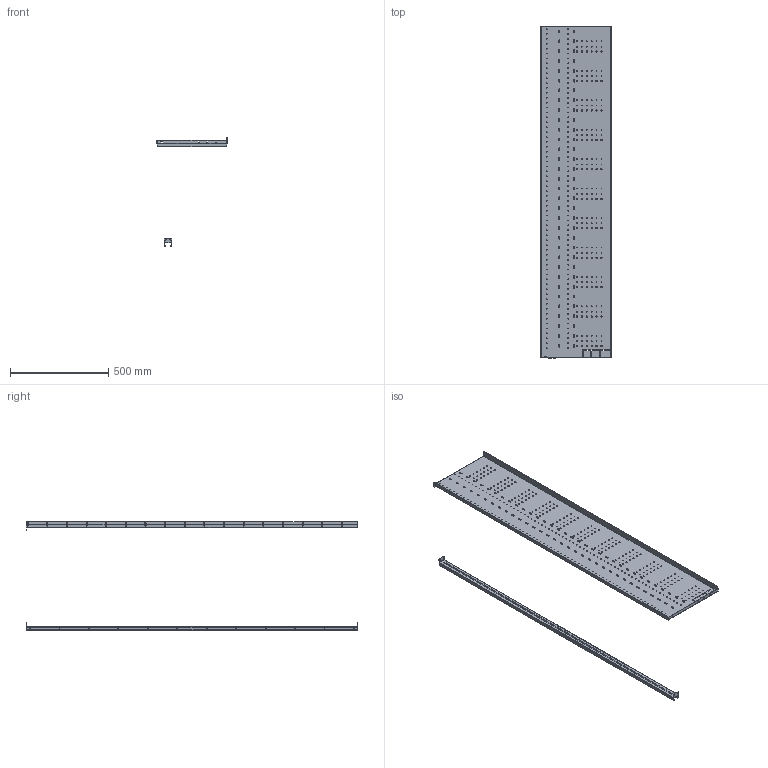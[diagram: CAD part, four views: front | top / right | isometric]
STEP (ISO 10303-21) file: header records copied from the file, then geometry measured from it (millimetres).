
FILE_DESCRIPTION(('CAx-IF Rec.Pracs.---Model Styling and Organization---1.2---2011-12-15','CAx-IF Rec.Pracs.---Geometric and Assembly Validation Properties---4.1---2014-06-16','CAx-IF Rec.Pracs.---PMI Polyline Presentation---2.0---2013-05-24'),'2;1');
FILE_NAME('R5M2CCR33M10.stp','2021-05-05T11:52:17+03:00',(''),(''),'STEP Interface 4.4 by CT CoreTechnologie','3D_Evolution4.4 by CT CoreTechnologie','');
FILE_SCHEMA(('AUTOMOTIVE_DESIGN { 1 0 10303 214 1 1 1 1 }'));
Length unit declared in the file: millimetre
Products named in the file (3): R5M2CCR33M10; RB.0838.00.00.0_-03; RB.1402.00.00.0_-03
Assembly tree (2 placements, depth 2):
  R5M2CCR33M10
    RB.0838.00.00.0_-03
    RB.1402.00.00.0_-03
Bounding box: 359.5 x 1690 x 552 mm (x, y, z)
Surface area: 1658465.3 mm2 (no closed solid volume)
Topology: 0 solids, 2 shells, 1605 faces, 4803 edges, 3192 vertices
Faces by surface type: cylinder 1218, plane 383, bspline 4
Entity records: 58176 total; most frequent: DIRECTION 10434, CARTESIAN_POINT 9755, ORIENTED_EDGE 9606, EDGE_CURVE 4803, AXIS2_PLACEMENT_3D 4035, VERTEX_POINT 3194, EDGE_LOOP 2929, CIRCLE 2433
